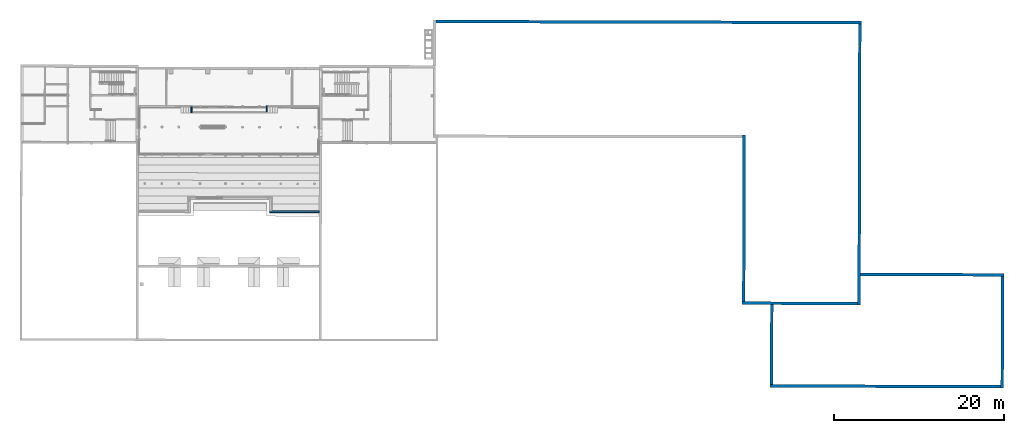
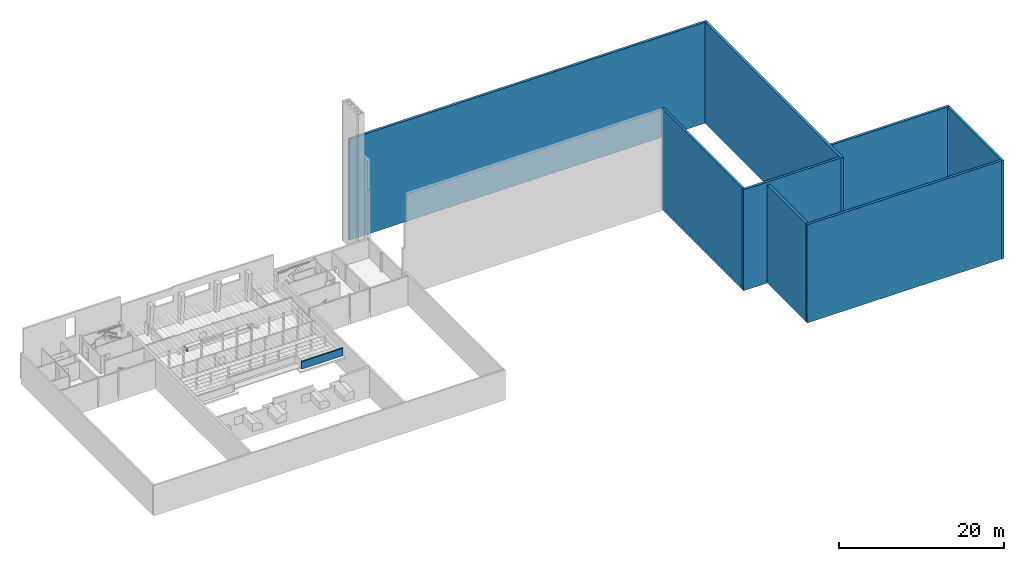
# One storey, part 11 of 24: 11 walls.
"""IFC2X3 building model written with IfcOpenShell, lengths in metres."""

from ifc_helpers import new_model, entity, si_unit, converted_unit, derived_unit, direction, frame, frame_2d, origin, place, context, subcontext, project, spatial, polyline, rectangle, outline, extrude, clip, bounded_halfspace, faceted_brep, material, layer, layer_set, layer_usage, type_object, element, save


model = new_model("IFC2X3")

# Units and contexts
model_context = context("Model", 3, precision=1e-05, world=origin(), true_north=direction((6.123233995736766e-17, 1.0)))
body_context = subcontext(model_context, "Body", "Model", "MODEL_VIEW")
ifc_project = project(units=[si_unit("LENGTHUNIT", "METRE"), si_unit("AREAUNIT", "SQUARE_METRE"), converted_unit("PLANEANGLEUNIT", "DEGREE", entity("IfcPlaneAngleMeasure", 0.017453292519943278), si_unit("PLANEANGLEUNIT", "RADIAN"), dimensions=[0, 0, 0, 0, 0, 0, 0]), derived_unit("THERMALTRANSMITTANCEUNIT", [(si_unit("MASSUNIT", "GRAM", prefix="KILO"), 1), (si_unit("THERMODYNAMICTEMPERATUREUNIT", "KELVIN"), -1), (si_unit("TIMEUNIT", "SECOND"), -3)])], contexts=[model_context])

# Site, building, storey
site_placement = place(None, frame((1253.6752467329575, 2072.143113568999, 91.49999999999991), z_axis=(0.0, 0.0, 1.0), x_axis=(0.7237211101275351, 0.6900925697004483, 0.0)))
site = spatial("IfcSite", under=ifc_project, at=site_placement, Name="Surface", CompositionType="ELEMENT")
building_placement = place(site_placement, origin())
building = spatial("IfcBuilding", under=site, at=building_placement, CompositionType="ELEMENT")
storey_placement = place(building_placement, frame((0.0, 0.0, -7.049999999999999)))
storey = spatial("IfcBuildingStorey", under=building, at=storey_placement, Name="R-1", CompositionType="ELEMENT", Elevation=-7.049999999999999)

# Walls
ifc_material_1 = material(Name="OMD_Béton blanc")
ifc_layer_1 = layer(ifc_material_1, 0.35)
ifc_layer_set_1 = layer_set([ifc_layer_1], Name="Mur de base:MUR 35")
ifc_layer_usage_1 = layer_usage(ifc_layer_set_1, "AXIS2", "NEGATIVE", 0.175)
wall_type_1 = type_object("IfcWallType", Name="Mur de base:MUR 35", PredefinedType="STANDARD", material=ifc_layer_set_1)
wall_1_placement = place(storey_placement, frame((205.1344270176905, -2.353160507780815, 0.0), z_axis=(0.0, 0.0, 1.0), x_axis=(0.721921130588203, -0.6919753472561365, 0.0)))
element("IfcWallStandardCase", 1, at=wall_1_placement, inside=storey, type_object=wall_type_1, material=ifc_layer_usage_1, Name="Mur de base:MUR 35", ObjectType="Mur de base:MUR 35", context=body_context, shape_type="SweptSolid", body=[
    extrude(rectangle(XDim=50.069999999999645, YDim=0.35000000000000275, at=frame_2d((25.034999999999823, -2.9004576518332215e-15), x_axis=(-1.0, 0.0))), origin(), (0.0, 0.0, 1.0), 14.94999999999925),
])
ifc_layer_usage_2 = layer_usage(ifc_layer_set_1, "AXIS2", "NEGATIVE", 0.175)
wall_2_placement = place(storey_placement, frame((241.03358614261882, -37.00560665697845, 0.0), z_axis=(0.0, 0.0, 1.0), x_axis=(-0.6919753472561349, -0.7219211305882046, 0.0)))
element("IfcWallStandardCase", 2, at=wall_2_placement, inside=storey, type_object=wall_type_1, material=ifc_layer_usage_2, Name="Mur de base:MUR 35", ObjectType="Mur de base:MUR 35", context=body_context, shape_type="SweptSolid", body=[
    extrude(rectangle(XDim=33.07499999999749, YDim=0.34999999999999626, at=frame_2d((16.537499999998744, 1.7069679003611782e-15), x_axis=(-1.0, 0.0))), origin(), (0.0, 0.0, 1.0), 14.94999999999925),
])
ifc_layer_usage_3 = layer_usage(ifc_layer_set_1, "AXIS2", "NEGATIVE", 0.175)
wall_3_placement = place(storey_placement, frame((220.75695644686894, -58.412622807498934, 0.0), z_axis=(0.0, 0.0, 1.0), x_axis=(0.7219211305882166, -0.6919753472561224, 0.0)))
element("IfcWallStandardCase", 3, at=wall_3_placement, inside=storey, type_object=wall_type_1, material=ifc_layer_usage_3, Name="Mur de base:MUR 35", ObjectType="Mur de base:MUR 35", context=body_context, shape_type="SweptSolid", body=[
    extrude(rectangle(XDim=16.881082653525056, YDim=0.3500000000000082, at=frame_2d((8.440541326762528, -8.743006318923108e-16), x_axis=(-1.0, 0.0))), origin(), (0.0, 0.0, 1.0), 14.549999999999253),
])
ifc_layer_usage_4 = layer_usage(ifc_layer_set_1, "AXIS2", "NEGATIVE", 0.175)
wall_4_placement = place(storey_placement, frame((232.69633483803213, -70.09915635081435, 0.0), z_axis=(0.0, 0.0, 1.0), x_axis=(-0.6919753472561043, -0.7219211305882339, 0.0)))
element("IfcWallStandardCase", 4, at=wall_4_placement, inside=storey, type_object=wall_type_1, material=ifc_layer_usage_4, Name="Mur de base:MUR 35", ObjectType="Mur de base:MUR 35", context=body_context, shape_type="SweptSolid", body=[
    extrude(rectangle(XDim=13.160000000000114, YDim=0.3499999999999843, at=frame_2d((6.580000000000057, 4.163336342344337e-15), x_axis=(-1.0, 0.0))), origin(), (0.0, 0.0, 1.0), 14.549999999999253),
])
ifc_layer_usage_5 = layer_usage(ifc_layer_set_1, "AXIS2", "NEGATIVE", 0.175)
wall_5_placement = place(storey_placement, frame((223.58469875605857, -79.35220654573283, 0.0), z_axis=(0.0, 0.0, 1.0), x_axis=(-0.7219211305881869, 0.6919753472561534, 0.0)))
element("IfcWallStandardCase", 5, at=wall_5_placement, inside=storey, type_object=wall_type_1, material=ifc_layer_usage_5, Name="Mur de base:MUR 35", ObjectType="Mur de base:MUR 35", context=body_context, shape_type="SweptSolid", body=[
    extrude(rectangle(XDim=27.161082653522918, YDim=0.3499999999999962, at=frame_2d((13.580541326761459, -5.856426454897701e-15), x_axis=(-1.0, 0.0))), origin(), (0.0, 0.0, 1.0), 14.54999999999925),
])
ifc_layer_usage_6 = layer_usage(ifc_layer_set_1, "AXIS2", "NEGATIVE", 0.175)
wall_6_placement = place(storey_placement, frame((204.2239711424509, -60.552166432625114, 0.0), z_axis=(0.0, 0.0, 1.0), x_axis=(0.6919753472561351, 0.7219211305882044, 0.0)))
element("IfcWallStandardCase", 6, at=wall_6_placement, inside=storey, type_object=wall_type_1, material=ifc_layer_usage_6, Name="Mur de base:MUR 35", ObjectType="Mur de base:MUR 35", context=body_context, shape_type="SweptSolid", body=[
    extrude(rectangle(XDim=9.39510517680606, YDim=0.34999999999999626, at=frame_2d((4.69755258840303, 2.275957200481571e-15), x_axis=(-1.0, 0.0))), origin(), (0.0, 0.0, 1.0), 14.54999999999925),
])
ifc_layer_usage_7 = layer_usage(ifc_layer_set_1, "AXIS2", "NEGATIVE", 0.175)
wall_7_placement = place(storey_placement, frame((218.14126102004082, -60.635716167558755, 0.0), z_axis=(0.0, 0.0, 1.0), x_axis=(-0.7219211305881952, 0.6919753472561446, 0.0)))
element("IfcWallStandardCase", 7, at=wall_7_placement, inside=storey, type_object=wall_type_1, material=ifc_layer_usage_7, Name="Mur de base:MUR 35", ObjectType="Mur de base:MUR 35", context=body_context, shape_type="SweptSolid", body=[
    extrude(rectangle(XDim=13.589999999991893, YDim=0.3499999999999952, at=frame_2d((6.794999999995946, 1.1102230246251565e-16), x_axis=(-1.0, 0.0))), origin(), (0.0, 0.0, 1.0), 14.94999999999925),
])
ifc_layer_usage_8 = layer_usage(ifc_layer_set_1, "AXIS2", "NEGATIVE", 0.175)
wall_8_placement = place(storey_placement, frame((208.57778473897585, -51.22653068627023, 0.0), z_axis=(0.0, 0.0, 1.0), x_axis=(0.6919753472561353, 0.721921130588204, 0.0)))
element("IfcWallStandardCase", 8, at=wall_8_placement, inside=storey, type_object=wall_type_1, material=ifc_layer_usage_8, Name="Mur de base:MUR 35", ObjectType="Mur de base:MUR 35", context=body_context, shape_type="SweptSolid", body=[
    extrude(outline(polyline([(-0.22086815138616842, -7.917997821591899), (0.1291321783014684, -7.917997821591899), (0.1296125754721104, -7.567997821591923), (0.15606153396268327, 11.701756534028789), (-0.19393813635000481, 11.702236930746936), (-0.22086815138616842, -7.917997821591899)])), frame((11.701959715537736, 0.03499999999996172, 0.0), z_axis=(0.0, 0.0, 1.0), x_axis=(-0.0013725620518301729, 0.9999990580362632, 0.0)), (0.0, 0.0, 1.0), 14.94999999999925),
])
ifc_layer_2 = layer(ifc_material_1, 0.12999999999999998)
ifc_layer_set_2 = layer_set([ifc_layer_2], Name="Mur de base:MUR 13")
ifc_layer_usage_9 = layer_usage(ifc_layer_set_2, "AXIS2", "POSITIVE", -0.06499999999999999)
wall_type_2 = type_object("IfcWallType", Name="Mur de base:MUR 13", PredefinedType="STANDARD", material=ifc_layer_set_2)
wall_9_placement = place(storey_placement, frame((177.35073193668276, 10.24799119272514, 0.0), z_axis=(0.0, 0.0, 1.0), x_axis=(-0.6919753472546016, -0.7219211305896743, 0.0)))
element("IfcWallStandardCase", 9, at=wall_9_placement, inside=storey, type_object=wall_type_2, material=ifc_layer_usage_9, Name="Mur de base:MUR 13", ObjectType="Mur de base:MUR 13", context=body_context, shape_type="SweptSolid", body=[
    extrude(outline(polyline([(-0.07842022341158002, -0.3060378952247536), (0.05157989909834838, -0.3060378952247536), (0.051758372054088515, -0.17603789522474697), (0.052541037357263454, 0.39405682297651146), (-0.0774590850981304, 0.3940568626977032), (-0.07842022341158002, -0.3060378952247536)])), frame((0.39412858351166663, 0.012999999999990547, 0.0), z_axis=(0.0, 0.0, 1.0), x_axis=(-0.0013728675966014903, 0.9999990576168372, 0.0)), (0.0, 0.0, 1.0), 0.49000000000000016),
])
ifc_layer_usage_10 = layer_usage(ifc_layer_set_2, "AXIS2", "POSITIVE", -0.06499999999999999)
wall_10_placement = place(storey_placement, frame((183.36804179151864, 3.707212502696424, 0.0), z_axis=(0.0, 0.0, 1.0), x_axis=(0.6919753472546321, 0.7219211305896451, 0.0)))
element("IfcWallStandardCase", 10, at=wall_10_placement, inside=storey, type_object=wall_type_2, material=ifc_layer_usage_10, Name="Mur de base:MUR 13", ObjectType="Mur de base:MUR 13", context=body_context, shape_type="Clipping", body=[
    clip(extrude(outline(polyline([(0.00017847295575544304, -0.0650000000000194), (0.5702710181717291, -0.06500000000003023), (0.700271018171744, -0.06500000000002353), (0.7002710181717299, 0.06499999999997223), (0.0, 0.06499999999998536), (0.00017847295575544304, -0.0650000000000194)])), origin(), (0.0, 0.0, 1.0), 0.49999999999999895), bounded_halfspace(frame((0.0001784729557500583, -0.06500000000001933, 0.49999999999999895), z_axis=(0.0, 0.0, -1.0), x_axis=(0.9999990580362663, 0.001372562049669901, 0.0)), True, frame((0.0001784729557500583, -0.06500000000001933, 0.49999999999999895)), polyline([(0.0, 0.0), (0.5700925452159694, 0.0), (0.7000925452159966, 0.0), (0.7000925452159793, 0.12999999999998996), (-0.0001784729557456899, 0.13000000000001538), (0.0, 0.0)]))),
])
ifc_material_2 = material(Name="Béton - Béton coulé sur place")
ifc_layer_3 = layer(ifc_material_2, 0.2)
ifc_layer_set_3 = layer_set([ifc_layer_3], Name="Mur de base:MUR 20")
wall_type_3 = type_object("IfcWallType", Name="Mur de base:MUR 20", PredefinedType="STANDARD", material=ifc_layer_set_3)
wall_11_placement = place(storey_placement, frame((175.4995212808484, -5.053401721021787, 1.3077777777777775), z_axis=(0.0, 0.0, 1.0), x_axis=(0.7228702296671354, -0.6909838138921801, 0.0)))
element("IfcWall", 11, at=wall_11_placement, inside=storey, type_object=wall_type_3, Name="Mur de base:MUR 20", ObjectType="Mur de base:MUR 20", context=body_context, shape_type="Brep", body=[
    faceted_brep([(0.0, -0.10000000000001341, 0.0), (5.819230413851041, -0.10000000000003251, 0.0), (5.819230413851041, -0.10000000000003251, 1.0999999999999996), (0.19311170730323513, -0.10000000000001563, 1.0999999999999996), (0.19311170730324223, -0.10000000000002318, 1.112222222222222), (0.09311170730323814, -0.10000000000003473, 1.112222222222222), (0.0, -0.10000000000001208, 1.112222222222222), (0.0, 0.09999999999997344, 0.0), (0.0, 0.09999999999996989, 1.0622222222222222), (0.0, 0.09999999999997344, 1.112222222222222), (0.19311170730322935, 0.099999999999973, 1.112222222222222), (0.19311170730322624, 0.09999999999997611, 1.0999999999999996), (5.8193276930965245, 0.09999999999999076, 1.0999999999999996), (5.8193276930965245, 0.09999999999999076, 0.0)], [[[0, 1, 2, 3, 4, 5, 6]], [[7, 8, 9, 10, 11, 12, 13]], [[3, 2, 12, 11]], [[1, 0, 7, 13]], [[2, 1, 13, 12]], [[4, 10, 9, 6, 5]], [[0, 6, 9, 8, 7]], [[4, 3, 11, 10]]]),
])

save(model, "model.ifc")
